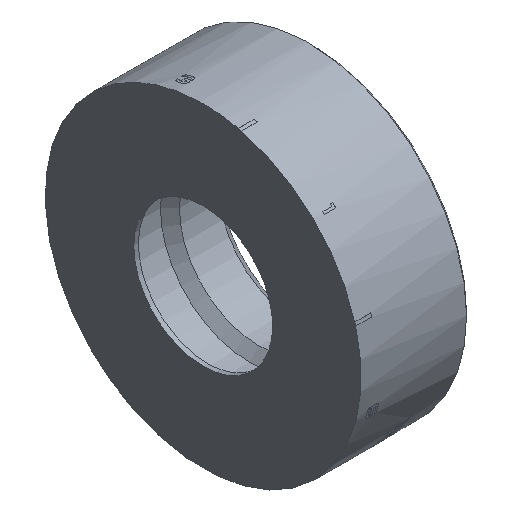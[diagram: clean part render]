
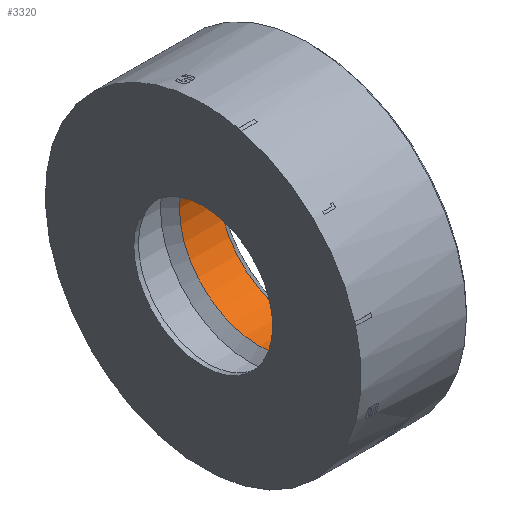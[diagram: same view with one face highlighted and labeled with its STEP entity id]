
A CAD part, isometric view. The second image highlights one B-rep face of the part: STEP entity #3320.
In plain terms, the highlighted cylindrical face has radius 12.059 mm (diameter 24.118 mm), a full revolution.
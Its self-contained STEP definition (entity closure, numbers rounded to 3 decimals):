
#3320=ADVANCED_FACE('',(#9887,#9889),#9891,.F.);
#9887=FACE_OUTER_BOUND('',#9888,.T.);
#9888=EDGE_LOOP('',(#11889));
#9889=FACE_OUTER_BOUND('',#9890,.T.);
#9890=EDGE_LOOP('',(#11890));
#9891=CYLINDRICAL_SURFACE('',#9892,12.059);
#9892=AXIS2_PLACEMENT_3D('',#9893,#9894,#9895);
#9893=CARTESIAN_POINT('',(-8.,0.,0.));
#9894=DIRECTION('',(-1.,0.,0.));
#9895=DIRECTION('',(0.,0.,1.));
#11889=ORIENTED_EDGE('',*,*,#12874,.T.);
#11890=ORIENTED_EDGE('',*,*,#12876,.T.);
#12874=EDGE_CURVE('',#14507,#14507,#14508,.F.);
#12876=EDGE_CURVE('',#14511,#14511,#14512,.T.);
#14507=VERTEX_POINT('',#19788);
#14508=CIRCLE('',#19789,12.059);
#14511=VERTEX_POINT('',#19798);
#14512=CIRCLE('',#19799,12.059);
#19788=CARTESIAN_POINT('',(-2.1,0.,12.059));
#19789=AXIS2_PLACEMENT_3D('',#19790,#19791,#19792);
#19790=CARTESIAN_POINT('',(-2.1,0.,0.));
#19791=DIRECTION('',(-1.,0.,0.));
#19792=DIRECTION('',(0.,0.,1.));
#19798=CARTESIAN_POINT('',(-8.059,0.,12.059));
#19799=AXIS2_PLACEMENT_3D('',#19800,#19801,#19802);
#19800=CARTESIAN_POINT('',(-8.059,0.,0.));
#19801=DIRECTION('',(-1.,0.,0.));
#19802=DIRECTION('',(0.,0.,1.));
